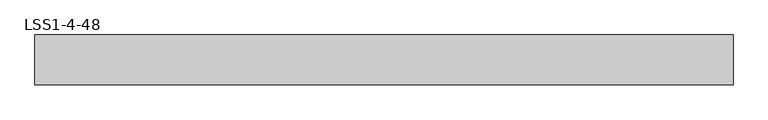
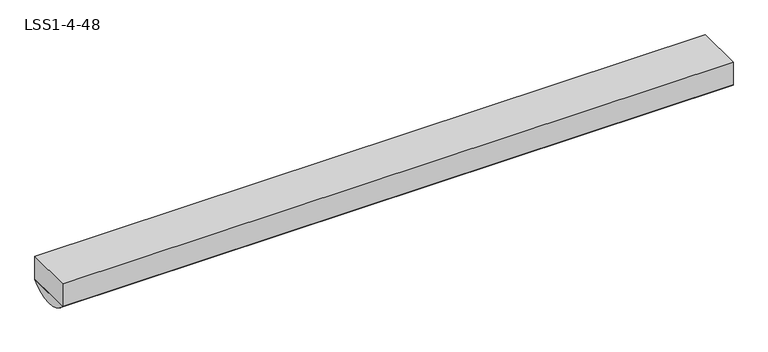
"""IFC4 building model written with IfcOpenShell, lengths in millimetres: light fixture geometry, 20401_SS1_ベースライト形_直付天井灯 : LSS1-4-48."""

from ifc_helpers import new_model, si_unit, point, frame, frame_2d, origin, place, context, project, spatial, polyline, circle_curve, trimmed, segment, composite_curve, outline, extrude, source, transform, mapped, element, save


def lss1_4_48_f8bb602a(model_context):
    return source(origin(), model_context, "Body", "SweptSolid", [
        extrude(outline(composite_curve([segment(trimmed(circle_curve(frame_2d((0.0, -4.375)), 60.625), [point((45.0, -45.0))], [point((-45.0, -45.0))], False, "CARTESIAN"), True, "CONTINUOUS"), segment(polyline([(-45.0, -45.0), (45.0, -45.0)]), True, "CONTINUOUS")], self_intersect=False)), frame((-630.0, 0.0, 0.0), z_axis=(1.0, 0.0, 0.0), x_axis=(0.0, 1.0, 0.0)), (0.0, 0.0, 1.0), 1260.0),
        extrude(outline(polyline([(630.0, -45.0), (-630.0, -45.0), (-630.0, 45.0), (630.0, 45.0), (630.0, -45.0)])), frame((0.0, 0.0, -45.0), z_axis=(0.0, 0.0, 1.0), x_axis=(1.0, 0.0, 0.0)), (0.0, 0.0, 1.0), 45.0),
    ])


if __name__ == "__main__":
    model = new_model("IFC4")
    model_context = context("Model", 3, world=origin())
    ifc_project = project(units=[si_unit("LENGTHUNIT", "METRE", prefix="MILLI")], contexts=[model_context])
    site = spatial("IfcSite", under=ifc_project)
    building = spatial("IfcBuilding", under=site)
    placement = place(None, origin())
    lss1_4_48_shape = lss1_4_48_f8bb602a(model_context)
    element("IfcLightFixture", 1, ObjectType="20401_SS1_ベースライト形_直付天井灯 : LSS1-4-48", at=placement, inside=building, context=model_context, shape_type="MappedRepresentation", body=[
        mapped(lss1_4_48_shape, transform((0.0, 0.0, 0.0), x_axis=(1.0, 0.0, 0.0), y_axis=(0.0, 1.0, 0.0), z_axis=(0.0, 0.0, 1.0))),
    ])
    save(model, "model.ifc")
